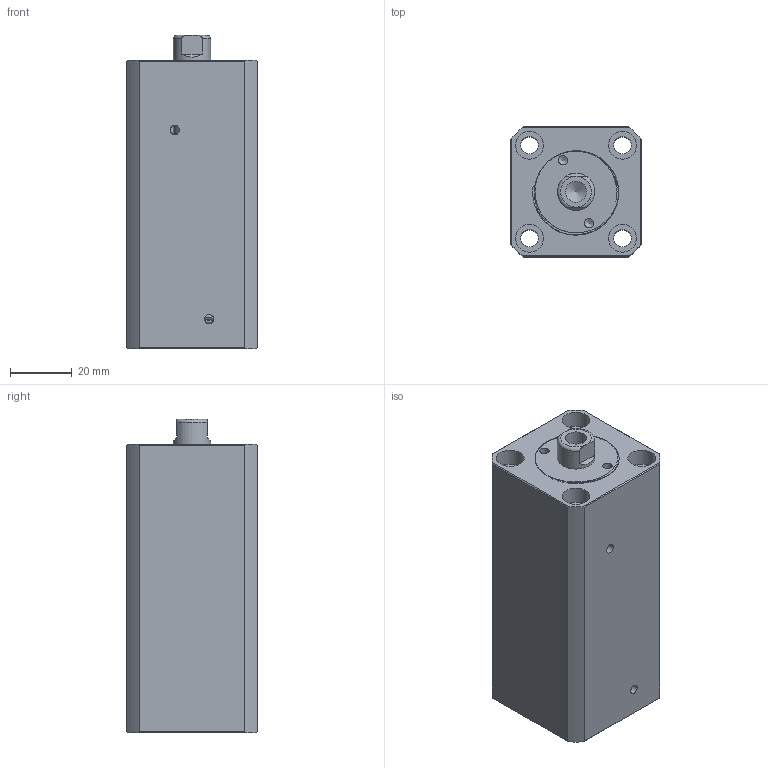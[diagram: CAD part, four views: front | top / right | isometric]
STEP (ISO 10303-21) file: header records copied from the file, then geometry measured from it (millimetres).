
FILE_DESCRIPTION(/* description */ (''),/* implementation_level */ '2;1');
FILE_NAME(/* name */ 'CHTB-sdmb20x50n.stp',/* time_stamp */ '2022-04-29T15:56:56+08:00',/* author */ (''),/* organization */ (''),/* preprocessor_version */ 'ST-DEVELOPER v16.7',/* originating_system */ 'SIEMENS PLM Software NX 12.0',/* authorisation */ '');
FILE_SCHEMA (('AUTOMOTIVE_DESIGN { 1 0 10303 214 3 1 1 1 }'));
Length unit declared in the file: millimetre
Products named in the file (1): CHTB-sdmb20x50n
Bounding box: 42 x 42 x 101 mm (x, y, z)
Volume: 138534 mm3; surface area: 41238.2 mm2
Topology: 3 solids, 3 shells, 500 faces, 1361 edges, 912 vertices
Faces by surface type: plane 307, extrusion 111, cylinder 50, torus 18, bspline 11, cone 3
Full cylindrical faces by diameter (mm): 2.5 x2, 3 x4, 5.6 x4, 6.8 x1, 8 x2, 9 x8, 12 x2, 16 x2, 18 x1, 20 x5, 26.5 x9
Entity records: 24476 total; most frequent: CARTESIAN_POINT 10229, ORIENTED_EDGE 2536, DIRECTION 1897, EDGE_CURVE 1268, VECTOR 967, VERTEX_POINT 888, LINE 856, EDGE_LOOP 611
